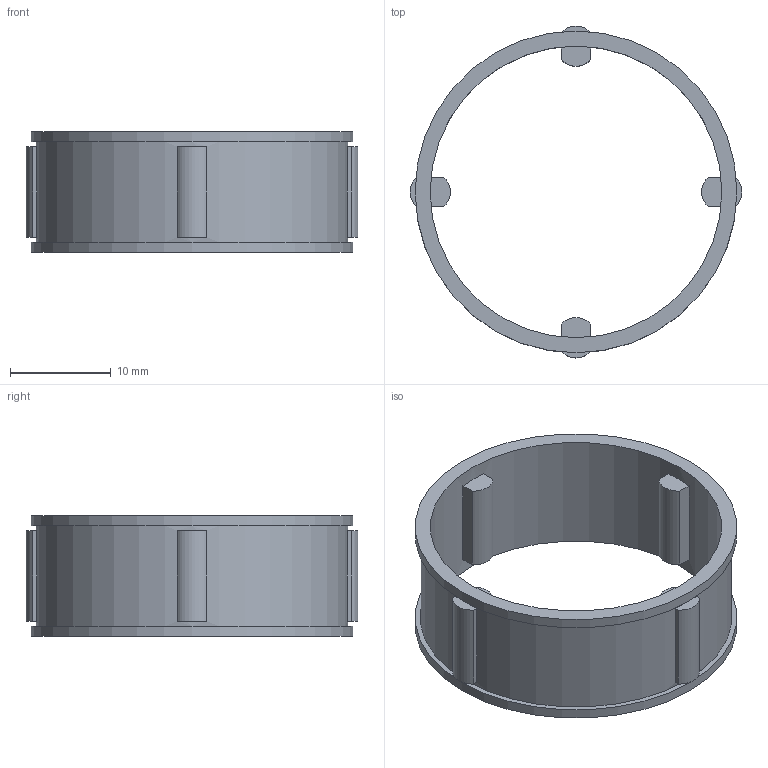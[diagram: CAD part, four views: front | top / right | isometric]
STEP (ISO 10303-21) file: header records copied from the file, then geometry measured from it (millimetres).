
FILE_DESCRIPTION(/* description */ (''),/* implementation_level */ '2;1');
FILE_NAME(/* name */ '300444 FE 433 M.stp',/* time_stamp */ '2016-11-03T13:33:13+01:00',/* author */ (''),/* organization */ (''),/* preprocessor_version */ 'ST-DEVELOPER v15',/* originating_system */ 'SIEMENS PLM Software NX 8.5',/* authorisation */ '');
FILE_SCHEMA (('CONFIG_CONTROL_DESIGN'));
Length unit declared in the file: millimetre
Products named in the file (1): ATE0000081_01
Bounding box: 33 x 33 x 12 mm (x, y, z)
Volume: 1505.4 mm3; surface area: 2864.5 mm2
Topology: 1 solids, 1 shells, 48 faces, 114 edges, 76 vertices
Faces by surface type: plane 36, cylinder 12
Full cylindrical faces by diameter (mm): 29 x1, 31 x1, 32 x2
Entity records: 1420 total; most frequent: DIRECTION 242, CARTESIAN_POINT 225, ORIENTED_EDGE 208, EDGE_CURVE 104, AXIS2_PLACEMENT_3D 89, VERTEX_POINT 72, LINE 64, VECTOR 64
